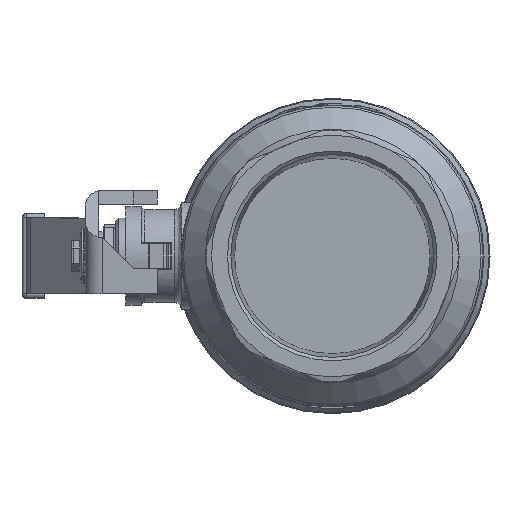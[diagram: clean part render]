
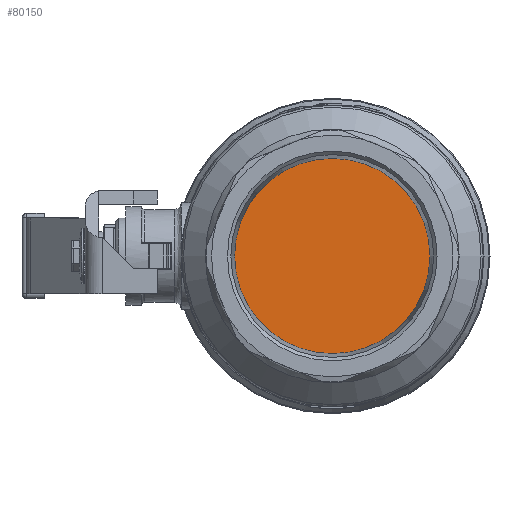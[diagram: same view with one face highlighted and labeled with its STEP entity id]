
A CAD part, left-side view. The second image highlights one B-rep face of the part: STEP entity #80150.
In plain terms, the highlighted planar face has unit normal (-1, 0, 0).
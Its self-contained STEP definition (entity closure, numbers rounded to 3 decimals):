
#80127=CARTESIAN_POINT('',(-76.15,-28.35,0.0));
#80128=VERTEX_POINT('',#80127);
#80129=CARTESIAN_POINT('',(-76.15,0.0,0.0));
#80130=DIRECTION('',(-1.0,0.0,0.0));
#80131=DIRECTION('',(0.0,-1.0,0.0));
#80132=AXIS2_PLACEMENT_3D('',#80129,#80130,#80131);
#80133=CIRCLE('',#80132,28.35);
#80134=EDGE_CURVE('',#80128,#80128,#80133,.T.);
#80142=CARTESIAN_POINT('',(-76.15,-14.175,0.0));
#80143=DIRECTION('',(-1.0,0.0,0.0));
#80144=DIRECTION('',(0.0,0.0,1.0));
#80145=AXIS2_PLACEMENT_3D('',#80142,#80143,#80144);
#80146=PLANE('',#80145);
#80147=ORIENTED_EDGE('',*,*,#80134,.T.);
#80148=EDGE_LOOP('',(#80147));
#80149=FACE_OUTER_BOUND('',#80148,.T.);
#80150=ADVANCED_FACE('',(#80149),#80146,.T.);
